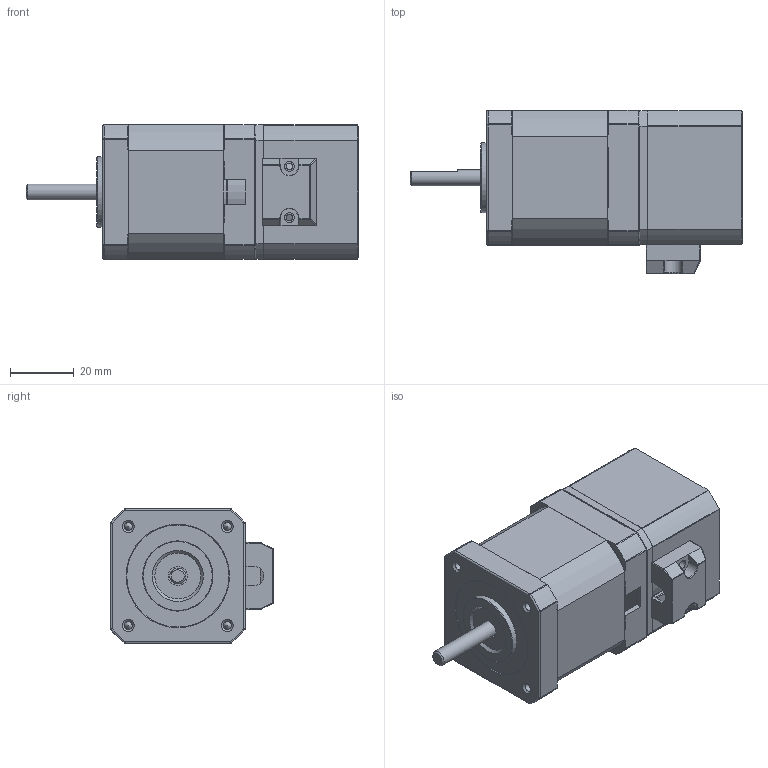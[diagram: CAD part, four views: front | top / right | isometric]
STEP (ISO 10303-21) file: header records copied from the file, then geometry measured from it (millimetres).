
FILE_DESCRIPTION (( 'STEP AP203' ), '1' );
FILE_NAME ('YK42HB47-02A-SC.STEP', '2020-01-03T07:33:53', ( '' ), ( '' ), 'SwSTEP 2.0', 'SolidWorks 2014', '' );
FILE_SCHEMA (( 'CONFIG_CONTROL_DESIGN' ));
Length unit declared in the file: millimetre
Products named in the file (21): YK42HBXX-02A綴裔; 蹟隊; YK42HBXX-02粣郋; 42BK-綴欶; 42BK-揤盄輸; 42BK-1; YK42HBXX-02A隅赽; YK42HB47-02A-SC; 42BK; YK42HBXX-02A前盖
Assembly tree (12 placements, depth 3):
  YK42HBXX-02A綴裔
  蹟隊
  YK42HBXX-02粣郋
  42BK-綴欶
  42BK-揤盄輸
Bounding box: 104 x 51.1 x 42.2 mm (x, y, z)
Volume: 84481.2 mm3; surface area: 47757.3 mm2
Topology: 7 solids, 15 shells, 660 faces, 1738 edges, 1049 vertices
Faces by surface type: cylinder 315, plane 196, cone 81, sphere 46, torus 18, bspline 4
Full cylindrical faces by diameter (mm): 2.05 x2, 2.5 x4, 3 x111, 3.3 x10, 3.4 x4, 4.5 x1, 4.6 x4, 5 x1, 6 x4, 6.5 x1, 10 x1, 13 x4, 16 x2, 18 x1, 22 x1, 25.91 x3, 26.3 x1, 27 x1, 33 x1, 38 x1
Entity records: 15570 total; most frequent: CARTESIAN_POINT 3149, DIRECTION 2335, ORIENTED_EDGE 1996, EDGE_CURVE 1002, AXIS2_PLACEMENT_3D 929, VERTEX_POINT 651, EDGE_LOOP 599, FACE_OUTER_BOUND 510
